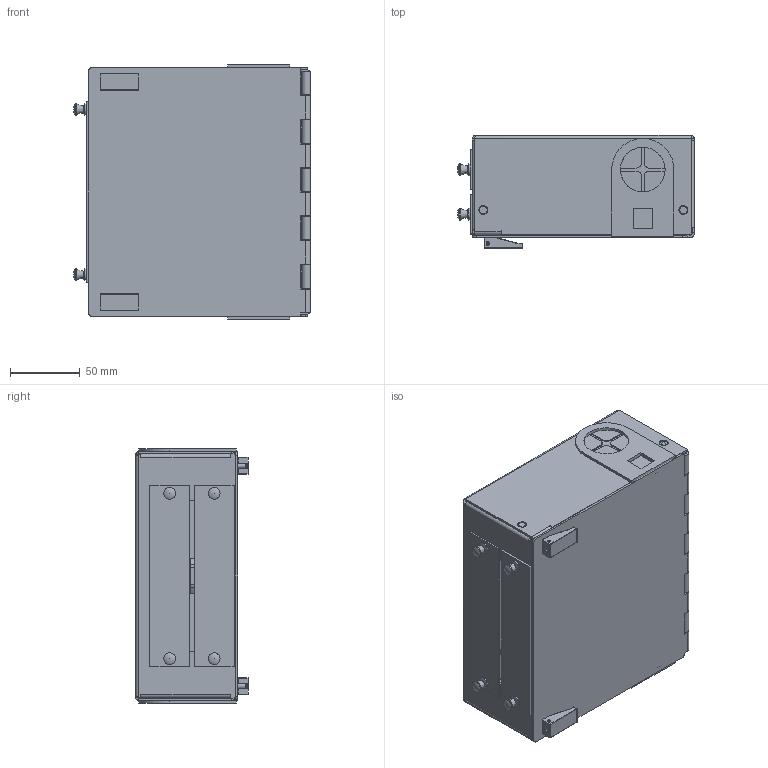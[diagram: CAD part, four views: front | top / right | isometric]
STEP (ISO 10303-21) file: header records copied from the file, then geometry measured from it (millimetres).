
FILE_DESCRIPTION(/* description */ ('STEP AP242','CAx-IF Rec.Pracs.---Representation and Presentation of Product Manufacturing Information (PMI)---4.0---2014-10-13','CAx-IF Rec.Pracs.---3D Tessellated Geometry---0.4---2014-09-14','2;1'),/* implementation_level */ '2;1');
FILE_NAME(/* name */ '6759e34a58749b240e668e16',/* time_stamp */ '2024-12-11T19:08:58Z',/* author */ (''),/* organization */ (''),/* preprocessor_version */ 'ST-DEVELOPER v20',/* originating_system */ 'ONSHAPE BY PTC INC, 1.190',/* authorisation */ ' ');
FILE_SCHEMA (('AP242_MANAGED_MODEL_BASED_3D_ENGINEERING_MIM_LF { 1 0 10303 442 1 1 4 }'));
Length unit declared in the file: metre
Products named in the file (30): 2 Plate - Wall Mount Slimline Patch Panel; 2.75 inch Removable Grommet; SoCo 19-81-10 <2>; Shaft - 19-81-10; Handle - 19-81-10; Small Nut - 19-81-10; Bushing - 19-81-10; Pin - 19-81-10; Blank Adapter Plate <2>; Mini Snap Latch <2>; Plunger - Mini Snap Latch; Grommet - Mini Snap Latch; Mini Snap Latch <1>; Blank LGX Footprint Plate; Blank Adapter Plate <1>; SoCo 19-81-10 <1>; 2 Plate Patch Panel - Manufacturer Assembly <1>; Door; Hinge Pin; Housing <1>; PEM CLS-440-2  ; SK42BS x .13+ <1>; SKDEFAU0508321456065; SK42BS x .13+ <4>; Housing; SK42BS x .13+ <3>; SK42BS x .13+ <2>
Assembly tree (63 placements, depth 5):
  2 Plate - Wall Mount Slimline Patch Panel
    2.75 inch Removable Grommet  x2
    SoCo 19-81-10 <2>
      Shaft - 19-81-10
      Handle - 19-81-10
      Small Nut - 19-81-10
      Bushing - 19-81-10
      Pin - 19-81-10
    Blank Adapter Plate <2>
      Mini Snap Latch <2>
        Plunger - Mini Snap Latch
        Grommet - Mini Snap Latch
      Mini Snap Latch <1>
        Plunger - Mini Snap Latch
        Grommet - Mini Snap Latch
      Blank LGX Footprint Plate
    Blank Adapter Plate <1>
      Blank LGX Footprint Plate
      Mini Snap Latch <1>
        Plunger - Mini Snap Latch
        Grommet - Mini Snap Latch
      Mini Snap Latch <2>
        Plunger - Mini Snap Latch
        Grommet - Mini Snap Latch
    SoCo 19-81-10 <1>
      Small Nut - 19-81-10
      Handle - 19-81-10
      Bushing - 19-81-10
      Shaft - 19-81-10
      Pin - 19-81-10
    2 Plate Patch Panel - Manufacturer Assembly <1>
      Door
      Hinge Pin
      Housing <1>
        PEM CLS-440-2    x16
        SK42BS x .13+ <1>
          SKDEFAU0508321456065
          SKDEFAU0508321456065
        SK42BS x .13+ <4>
          SKDEFAU0508321456065
          SKDEFAU0508321456065
        Housing
        SK42BS x .13+ <3>
          SKDEFAU0508321456065
          SKDEFAU0508321456065
        SK42BS x .13+ <2>
          SKDEFAU0508321456065
          SKDEFAU0508321456065
Bounding box: 169.25 x 80.62 x 181.53 mm (x, y, z)
Volume: 188237.7 mm3; surface area: 237041 mm2
Topology: 49 solids, 49 shells, 2789 faces, 7432 edges, 4813 vertices
Faces by surface type: plane 2000, cylinder 459, cone 170, bspline 96, torus 48, sphere 16
Full cylindrical faces by diameter (mm): 1.956 x4, 1.981 x2, 2.037 x4, 2.108 x2, 2.156 x16, 2.184 x8, 3.175 x5, 3.454 x2, 3.556 x4, 3.81 x12, 3.937 x4, 4.191 x16, 4.216 x16, 4.3 x2, 5.588 x8, 5.842 x4, 6.35 x23, 8.382 x8, 8.6 x2, 8.712 x2, 9.779 x2, 32.004 x4
Entity records: 24657 total; most frequent: CARTESIAN_POINT 4747, DIRECTION 3749, ORIENTED_EDGE 3586, EDGE_CURVE 1793, AXIS2_PLACEMENT_3D 1271, LINE 1207, VECTOR 1207, VERTEX_POINT 1189
